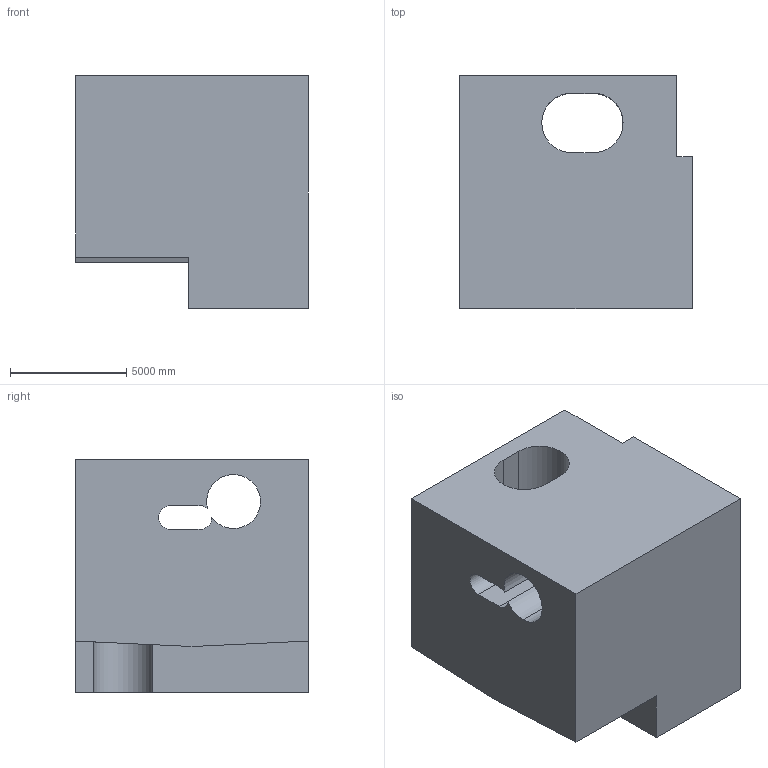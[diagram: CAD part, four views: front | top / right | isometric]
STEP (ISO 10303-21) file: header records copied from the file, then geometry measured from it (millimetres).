
FILE_DESCRIPTION (( 'STEP AP203' ), '1' );
FILE_NAME ('153.STEP', '2022-09-05T15:46:49', ( 'user' ), ( '' ), 'SwSTEP 2.0', 'SolidWorks 2021', '' );
FILE_SCHEMA (( 'CONFIG_CONTROL_DESIGN' ));
Length unit declared in the file: centimetre
Products named in the file (1): 153
Bounding box: 10000 x 10000 x 10000 mm (x, y, z)
Volume: 718044284621.2 mm3; surface area: 747905178.3 mm2
Topology: 1 solids, 1 shells, 28 faces, 81 edges, 54 vertices
Faces by surface type: plane 19, cylinder 9
Entity records: 1006 total; most frequent: CARTESIAN_POINT 170, ORIENTED_EDGE 162, DIRECTION 153, EDGE_CURVE 81, LINE 63, VECTOR 63, VERTEX_POINT 54, AXIS2_PLACEMENT_3D 45
